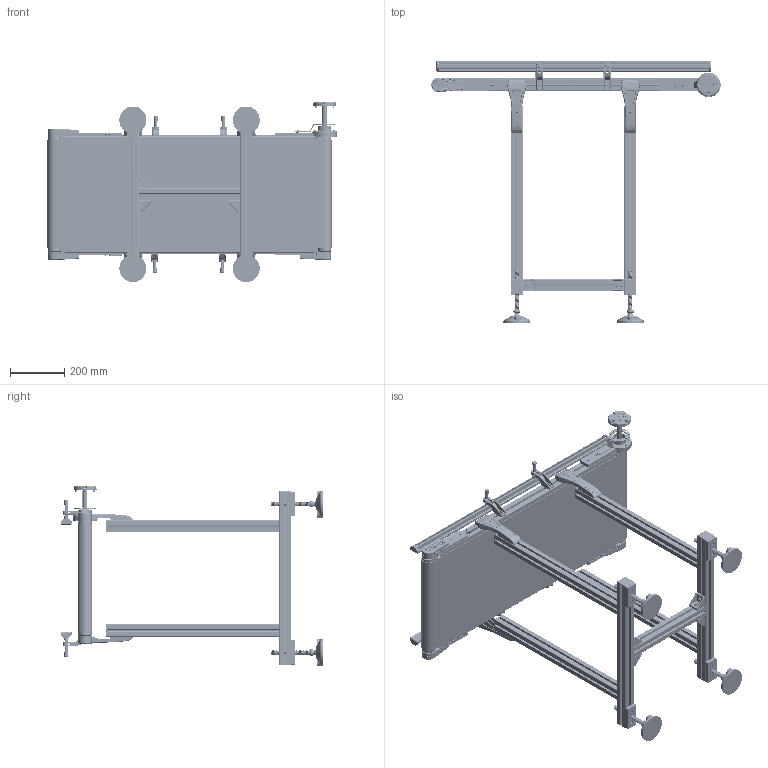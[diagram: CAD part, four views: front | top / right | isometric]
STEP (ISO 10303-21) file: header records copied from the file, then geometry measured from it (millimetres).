
FILE_DESCRIPTION (( 'STEP AP203' ), '1' );
FILE_NAME ('NASTRO_RETTILINEO_TAPPETO.step', '2026-05-29T06:03:43', ( 'Utente Windows' ), ( '' ), 'SwSTEP 2.0', 'SolidWorks 2024', '' );
FILE_SCHEMA (( 'CONFIG_CONTROL_DESIGN' ));
Length unit declared in the file: millimetre
Products named in the file (70): 2010.000.069; FLANGIA_GAMBA_50; 084.402.005; 2010.000.068_L; 084.201.012; BLOCCO_TRAINO_50_STANDARD_44_DX; 084.811.002; 084.803.018; 084.711.007; 084.712.002; CHIAVETTE_A 5x5x20 UNI 6604-69; 084.802.065_Default<A macchina>; TAPPETO_STANDARD; VITE_RONDELLA_M8X20; PIEDE; VITI TSEI UNI 5933 INOX_0412UNI5933A2; ANGOLARE_43; 084.301.000 VITI ALUSIC1_084.301.003; SPONDA_Default<A macchina>; RULLO_50_Default<A macchina>; CHIAVETTE_A 6x6x60 UNI 6604-69; LAMIERA_STANDARD; 084.305.003-1; 084.810.001; DADI ESAGONALI NORMALI UNI 5588_M6 UNI 5588; VITI TE UNI 5739_M6x16 UNI 5739; 084.802.008; 084.802.060_Default<A macchina>; 084.811.004; 2010.000.070; 084.711.010; 084.807.001_084.807.001; 084.808.012; 084.807.002_084.807.002; 084.711.006_L1; BLOCCO_PERNO_50_44; VITE_DADO_M5X12; 0820ISO2342; BLOCCO_RINVIO_50_STANDARD; 084.802.062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
Assembly tree (156 placements, depth 4):
  NASTRO_RETTILINEO_TAPPETO
    TAPPETO_STANDARD
    TELAIO_50_STANDARD_Default<A macchina>
    LAMIERA_STANDARD
    RULLO_50_Default<A macchina>  x2
    BLOCCO_PERNO_50_44
      084.810.001
      084.811.002
      RONDELLE FASCIA LARGA UNI 6593_6.4x24 UNI 6593
      VITI TE UNI 5739_M6x12 UNI 5739
      CHIAVETTE_A 5x5x20 UNI 6604-69
      CHIAVETTE_A 6x6x60 UNI 6604-69
    BLOCCO_TRAINO_50_STANDARD_44_DX
      084.807.001_084.807.001
      084.802.034_084.802.034
      084.301.000 VITI ALUSIC_084.301.003  x2
      084.302.000 DADI ALUSIC 13x13-1_084.302.004  x2
      BLOCCO_BRACCIO_CH04P_V2_VF44P V2
        084.808.012
        084.802.062
        0820ISO2342
        084.803.018
        VITI TCEI UNI 5931_M6x12 UNI 5931  x4
        VITI TE UNI 5739_M6x16 UNI 5739  x4
        084.802.060_Default<A macchina>
      084.802.065_Default<A macchina>
      VITI TCEI UNI 5931_M4x25 UNI 5931  x2
    BLOCCO_PERNO_50_RINVIO  x3
      084.811.004
      084.810.001
    BLOCCO_TRAINO_50_STANDARD
      084.807.002_084.807.002
      084.802.017_084.802.017
      084.301.000 VITI ALUSIC_084.301.003  x2
      084.302.000 DADI ALUSIC 13x13-1_084.302.004  x2
      084.802.071
      VITI TSEI UNI 5933 INOX_0412UNI5933A2  x2
    BLOCCO_RINVIO_50_STANDARD  x2
      084.807.002_084.807.002
      084.802.017_084.802.017
      084.802.008
      084.301.000 VITI ALUSIC_084.301.003
      084.302.000 DADI ALUSIC 13x13_084.302.004
      VITI TSEI UNI 5933_M4x10 UNI 5933
      084.802.071
    SPONDA_Default<A macchina>  x2
    084.711.006_PER CAVA 8 PERNO ALTO 1  x4
      084.711.006_L1
      084.711.006_L2
      084.711.007
      084.711.005
      084.711.010
      DADI ESAGONALI NORMALI UNI 5588_M6 UNI 5588
    084.712.002  x4
    GAMBE_D50_Default<A macchina>  x2
    FLANGIA_GAMBA_50
      084.302.000 DADI ALUSIC 13x13-1_084.302.004  x4
      RONDELLE UNI 6592_8.4x17 UNI 6592  x3
      084.301.000 VITI ALUSIC_084.301.003  x4
      2010.000.068
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Bounding box: 1072 x 972.1 x 667.44 mm (x, y, z)
Volume: 10036863.7 mm3; surface area: 8411511.8 mm2
Topology: 271 solids, 274 shells, 15098 faces, 39322 edges, 24954 vertices
Faces by surface type: plane 5982, cylinder 4798, bspline 1755, cone 1310, torus 1089, sphere 164
Entity records: 230510 total; most frequent: CARTESIAN_POINT 83260, ORIENTED_EDGE 30500, DIRECTION 26810, EDGE_CURVE 15250, VERTEX_POINT 9790, AXIS2_PLACEMENT_3D 9362, LINE 8086, VECTOR 8086
